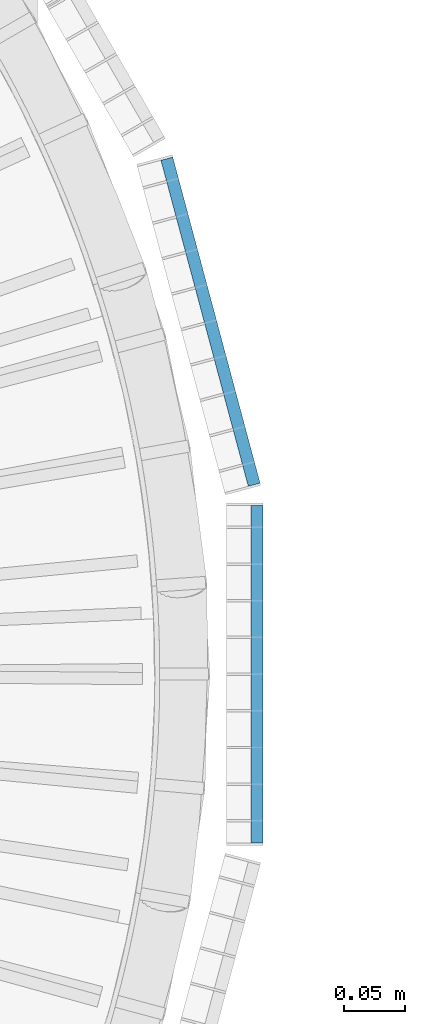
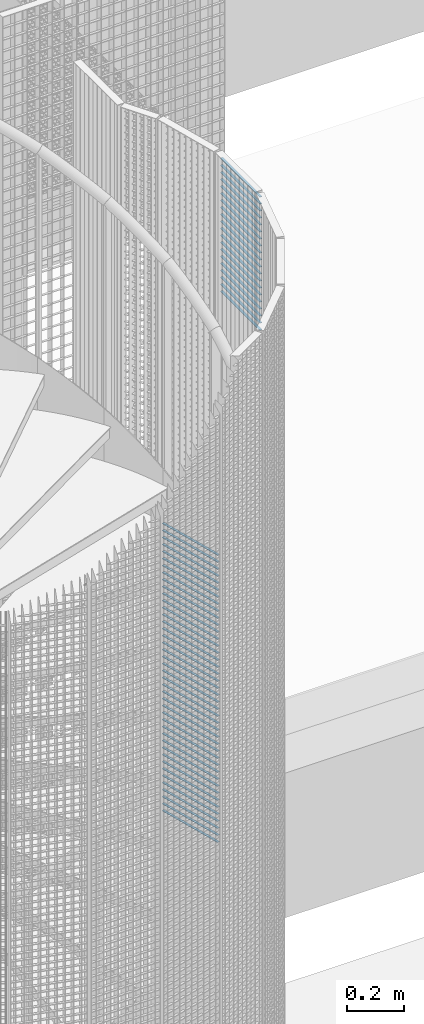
# One storey, part 265 of 1148: 62 beams, 2 elements without a shape of their own.
"""IFC2X3 building model written with IfcOpenShell, lengths in millimetres."""

import ifcopenshell
import ifcopenshell.guid

model = None  # the IFC model being written
_history = None  # IfcOwnerHistory: only IFC2X3 demands one
_inside = {}  # id of a spatial element -> (the spatial element, [elements in it])
_under = {}  # id of a project, library or spatial element -> (it, [spatial elements below it])
_declared = {}  # id of a project -> (the project, [libraries it declares])
_typed = {}  # id of a type object -> (the type object, [elements of that type])
_made_of = {}  # id of a material, layer set ... -> (it, [elements and type objects made of it])


def new_model(schema):
    """Start an empty IFC model of exactly this schema.

    Asked for "IFC4X3", IfcOpenShell would pick the latest addendum, in which some entities
    have other attributes; the version numbers below select the first issue.
    IFC2X3 requires an IfcOwnerHistory on every rooted entity: one is made here for all.
    """
    global model, _history
    if schema == "IFC4X3":
        model = ifcopenshell.file(schema_version=(4, 3, 0, 0))
    else:
        model = ifcopenshell.file(schema=schema)
    _inside.clear()
    _under.clear()
    _declared.clear()
    _typed.clear()
    _made_of.clear()
    _history = None
    if model.schema == "IFC2X3":
        org = make("IfcOrganization", Name="unknown")
        user = make(
            "IfcPersonAndOrganization",
            ThePerson=make("IfcPerson", FamilyName="unknown"),
            TheOrganization=org,
        )
        app = make(
            "IfcApplication",
            ApplicationDeveloper=org,
            Version="unknown",
            ApplicationFullName="unknown",
            ApplicationIdentifier="unknown",
        )
        _history = make(
            "IfcOwnerHistory",
            OwningUser=user,
            OwningApplication=app,
            ChangeAction="ADDED",
            CreationDate=0,
        )
    return model


def make(cls, **values):
    """One entity of the class cls with the attributes given. An attribute that is None is left unset."""
    return model.create_entity(
        cls, **{name: value for name, value in values.items() if value is not None}
    )


def rooted(cls, **values):
    """An entity with a GlobalId (a new one), such as an element, a storey or a relation."""
    return make(cls, GlobalId=ifcopenshell.guid.new(), OwnerHistory=_history, **values)


def si_unit(unit_type, name, prefix=None):
    """IfcSIUnit, for example si_unit("LENGTHUNIT", "METRE", prefix="MILLI")."""
    return make("IfcSIUnit", UnitType=unit_type, Prefix=prefix, Name=name)


def assignment(units):
    """IfcUnitAssignment: the units of a project."""
    return None if units is None else make("IfcUnitAssignment", Units=units)


def point(xyz):
    """IfcCartesianPoint."""
    return None if xyz is None else make("IfcCartesianPoint", Coordinates=xyz)


def direction(xyz):
    """IfcDirection."""
    return None if xyz is None else make("IfcDirection", DirectionRatios=xyz)


def frame(location, z_axis=None, x_axis=None):
    """IfcAxis2Placement3D, a coordinate frame: its origin and axes. An axis left out is left unset."""
    return make(
        "IfcAxis2Placement3D",
        Location=point(location),
        Axis=direction(z_axis),
        RefDirection=direction(x_axis),
    )


def frame_2d(location, x_axis=None):
    """IfcAxis2Placement2D, a coordinate frame in the plane: its origin and x axis."""
    return make(
        "IfcAxis2Placement2D", Location=point(location), RefDirection=direction(x_axis)
    )


def origin_with_axes():
    """The frame at (0, 0, 0) with the z axis (0, 0, 1) and the x axis (1, 0, 0) written out."""
    return frame((0.0, 0.0, 0.0), z_axis=(0.0, 0.0, 1.0), x_axis=(1.0, 0.0, 0.0))


def origin_2d_with_axis():
    """The frame at (0, 0) in the plane with the x axis (1, 0) written out."""
    return frame_2d((0.0, 0.0), x_axis=(1.0, 0.0))


def place(relative_to, where):
    """IfcLocalPlacement: puts the frame where relative to a parent placement (None: the world)."""
    return make(
        "IfcLocalPlacement", PlacementRelTo=relative_to, RelativePlacement=where
    )


def context(
    kind, dimensions, precision=None, world=None, true_north=None, identifier=None
):
    """IfcGeometricRepresentationContext, for example the 3D "Model" context."""
    return make(
        "IfcGeometricRepresentationContext",
        ContextIdentifier=identifier,
        ContextType=kind,
        CoordinateSpaceDimension=dimensions,
        Precision=precision,
        WorldCoordinateSystem=world,
        TrueNorth=true_north,
    )


def subcontext(parent, identifier, kind, view, scale=None):
    """IfcGeometricRepresentationSubContext, for example "Body" below "Model"."""
    return make(
        "IfcGeometricRepresentationSubContext",
        ContextIdentifier=identifier,
        ContextType=kind,
        ParentContext=parent,
        TargetScale=scale,
        TargetView=view,
    )


def project(units=None, contexts=None):
    """IfcProject with its units and contexts."""
    return rooted(
        "IfcProject",
        Name="project",
        RepresentationContexts=contexts,
        UnitsInContext=assignment(units),
    )


def spatial(cls, under=None, at=None, **own):
    """A site, building, storey or space (cls), placed at a placement, below another one or the project."""
    s = rooted(cls, ObjectPlacement=at, **own)
    if under is not None:
        _under.setdefault(under.id(), (under, []))[1].append(s)
    return s


def profile(cls, at=None, kind="AREA", **sizes):
    """A parametric profile (cls). Its sizes go by their IFC names, for example OverallWidth=200.0."""
    return make(cls, ProfileType=kind, Position=at, **sizes)


def rectangle(**sizes):
    """IfcRectangleProfileDef."""
    return profile("IfcRectangleProfileDef", **sizes)


def extrude(swept, where, along, depth):
    """IfcExtrudedAreaSolid: the profile swept, set in the frame where, extruded along a direction by depth."""
    return make(
        "IfcExtrudedAreaSolid",
        SweptArea=swept,
        Position=where,
        ExtrudedDirection=direction(along),
        Depth=depth,
    )


def shape(context_of_items, identifier, shape_type, items):
    """IfcShapeRepresentation: the items that make up one representation, for example the "Body"."""
    return make(
        "IfcShapeRepresentation",
        ContextOfItems=context_of_items,
        RepresentationIdentifier=identifier,
        RepresentationType=shape_type,
        Items=items,
    )


def material(Name=None, Category=None):
    """IfcMaterial."""
    return make("IfcMaterial", Name=Name, Category=Category)


def made_of(thing, what):
    """Note that an element or type object is made of a material, layer set ...; save() writes the relation."""
    if what is not None:
        _made_of.setdefault(what.id(), (what, []))[1].append(thing)
    return thing


def type_object(cls, material=None, **own):
    """A type object (cls), such as IfcWallType, which elements share."""
    return made_of(rooted(cls, **own), material)


def element(
    cls,
    number,
    at=None,
    inside=None,
    cuts=None,
    type_object=None,
    material=None,
    context=None,
    identifier="Body",
    shape_type=None,
    held_by="IfcProductDefinitionShape",
    body=None,
    shapes=None,
    **own,
):
    """One element of the class cls, such as IfcWall. Its Tag is "e" and its number.

    at: its placement. inside: the storey or other place that contains it. cuts: it is an
    opening in that element (IfcRelVoidsElement). A single representation is given by context,
    identifier, shape_type and body (its items); several are given by shapes. held_by: the class
    of the entity that holds the representations. save() writes the other relations.
    """
    e = rooted(cls, Tag="e%d" % number, ObjectPlacement=at, **own)
    if body is not None:
        shapes = [shape(context, identifier, shape_type, body)]
    if shapes is not None:
        e.Representation = make(held_by, Representations=shapes)
    if inside is not None:
        _inside.setdefault(inside.id(), (inside, []))[1].append(e)
    if cuts is not None:
        rooted(
            "IfcRelVoidsElement", RelatingBuildingElement=cuts, RelatedOpeningElement=e
        )
    if type_object is not None:
        _typed.setdefault(type_object.id(), (type_object, []))[1].append(e)
    return made_of(e, material)


def aggregate(whole, parts):
    """IfcRelAggregates: a whole, such as a stair, and the parts it consists of."""
    return rooted("IfcRelAggregates", RelatingObject=whole, RelatedObjects=parts)


def save(model, path):
    """Write the relations noted so far, then the file.

    IfcRelAggregates (storeys below a building ...), IfcRelContainedInSpatialStructure (elements
    in a storey), IfcRelDefinesByType, IfcRelAssociatesMaterial and IfcRelDeclares: one each for
    every whole, place, type object, material and project.
    """
    for whole, parts in _under.values():
        aggregate(whole, parts)
    for where, things in _inside.values():
        rooted(
            "IfcRelContainedInSpatialStructure",
            RelatedElements=things,
            RelatingStructure=where,
        )
    for kind, things in _typed.values():
        rooted("IfcRelDefinesByType", RelatedObjects=things, RelatingType=kind)
    for what, things in _made_of.values():
        rooted("IfcRelAssociatesMaterial", RelatedObjects=things, RelatingMaterial=what)
    for by, libraries in _declared.values():
        rooted("IfcRelDeclares", RelatingContext=by, RelatedDefinitions=libraries)
    model.write(path)


model = new_model("IFC2X3")

# Units and contexts
model_context = context("Model", 3, precision=1e-05, world=origin_with_axes())
body_context = subcontext(model_context, "Body", "Model", "MODEL_VIEW")
ifc_project = project(units=[si_unit("LENGTHUNIT", "METRE", prefix="MILLI"), si_unit("AREAUNIT", "SQUARE_METRE"), si_unit("VOLUMEUNIT", "CUBIC_METRE"), si_unit("MASSUNIT", "GRAM", prefix="KILO"), si_unit("TIMEUNIT", "SECOND"), si_unit("PLANEANGLEUNIT", "RADIAN"), si_unit("SOLIDANGLEUNIT", "STERADIAN"), si_unit("THERMODYNAMICTEMPERATUREUNIT", "DEGREE_CELSIUS"), si_unit("LUMINOUSINTENSITYUNIT", "LUMEN")], contexts=[model_context])

# Site, building, storey
site_placement = place(None, origin_with_axes())
site = spatial("IfcSite", under=ifc_project, at=site_placement, Name="Undefined", CompositionType="ELEMENT")
building_placement = place(site_placement, origin_with_axes())
building = spatial("IfcBuilding", under=site, at=building_placement, Name="Undefined", CompositionType="ELEMENT")
storey_placement = place(building_placement, origin_with_axes())
storey = spatial("IfcBuildingStorey", under=building, at=storey_placement, Name="Undefined", CompositionType="ELEMENT", Elevation=0.0)

# Assembly, beams
assembly_1_placement = place(storey_placement, origin_with_axes())
assembly_1 = element("IfcElementAssembly", 1, at=assembly_1_placement, inside=storey, Name="BORDURE", AssemblyPlace="NOTDEFINED", PredefinedType="NOTDEFINED")
ifc_material = material(Name="STEEL/S235JR")
beam_type = type_object("IfcBeamType", Name="PL2*10", PredefinedType="NOTDEFINED")
beam_1_placement = place(assembly_1_placement, frame((1111.25508286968, 154.895926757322, 16260.0), z_axis=(0.965925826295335, 0.258819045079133, 0.0), x_axis=(-0.258819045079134, 0.965925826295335, 0.0)))
beam_1 = element("IfcBeam", 2, at=beam_1_placement, type_object=beam_type, material=ifc_material, Name="ENTRETOISE", context=body_context, shape_type="SweptSolid", body=[
    extrude(rectangle(XDim=2.0, YDim=10.0, at=origin_2d_with_axis()), frame((275.999999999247, 9.09494701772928e-13, 1.53210777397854e-14), z_axis=(-1.0, 0.0, 0.0), x_axis=(0.0, -1.0, 0.0)), (0.0, 0.0, 1.0), 276.0),
])
beam_2_placement = place(assembly_1_placement, frame((1111.25508286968, 154.895926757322, 16230.0), z_axis=(0.965925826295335, 0.258819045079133, 0.0), x_axis=(-0.258819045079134, 0.965925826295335, 0.0)))
beam_2 = element("IfcBeam", 3, at=beam_2_placement, type_object=beam_type, material=ifc_material, Name="ENTRETOISE", context=body_context, shape_type="SweptSolid", body=[
    extrude(rectangle(XDim=2.0, YDim=10.0, at=origin_2d_with_axis()), frame((275.999999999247, 9.09494701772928e-13, 1.53210777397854e-14), z_axis=(-1.0, 0.0, 0.0), x_axis=(0.0, -1.0, 0.0)), (0.0, 0.0, 1.0), 276.0),
])
beam_3_placement = place(assembly_1_placement, frame((1111.25508286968, 154.895926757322, 16200.0), z_axis=(0.965925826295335, 0.258819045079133, 0.0), x_axis=(-0.258819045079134, 0.965925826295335, 0.0)))
beam_3 = element("IfcBeam", 4, at=beam_3_placement, type_object=beam_type, material=ifc_material, Name="ENTRETOISE", context=body_context, shape_type="SweptSolid", body=[
    extrude(rectangle(XDim=2.0, YDim=10.0, at=origin_2d_with_axis()), frame((275.999999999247, 9.09494701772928e-13, 1.53210777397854e-14), z_axis=(-1.0, 0.0, 0.0), x_axis=(0.0, -1.0, 0.0)), (0.0, 0.0, 1.0), 276.0),
])
beam_4_placement = place(assembly_1_placement, frame((1111.25508286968, 154.895926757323, 16170.0), z_axis=(0.965925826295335, 0.258819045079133, 0.0), x_axis=(-0.258819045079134, 0.965925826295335, 0.0)))
beam_4 = element("IfcBeam", 5, at=beam_4_placement, type_object=beam_type, material=ifc_material, Name="ENTRETOISE", context=body_context, shape_type="SweptSolid", body=[
    extrude(rectangle(XDim=2.0, YDim=10.0, at=origin_2d_with_axis()), frame((275.999999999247, 9.09494701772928e-13, 1.53210777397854e-14), z_axis=(-1.0, 0.0, 0.0), x_axis=(0.0, -1.0, 0.0)), (0.0, 0.0, 1.0), 276.0),
])
beam_5_placement = place(assembly_1_placement, frame((1111.25508286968, 154.895926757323, 16140.0), z_axis=(0.965925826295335, 0.258819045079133, 0.0), x_axis=(-0.258819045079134, 0.965925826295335, 0.0)))
beam_5 = element("IfcBeam", 6, at=beam_5_placement, type_object=beam_type, material=ifc_material, Name="ENTRETOISE", context=body_context, shape_type="SweptSolid", body=[
    extrude(rectangle(XDim=2.0, YDim=10.0, at=origin_2d_with_axis()), frame((275.999999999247, 9.09494701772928e-13, 1.53210777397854e-14), z_axis=(-1.0, 0.0, 0.0), x_axis=(0.0, -1.0, 0.0)), (0.0, 0.0, 1.0), 276.0),
])
beam_6_placement = place(assembly_1_placement, frame((1111.25508286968, 154.895926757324, 15720.0), z_axis=(0.965925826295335, 0.258819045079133, 0.0), x_axis=(-0.258819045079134, 0.965925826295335, 0.0)))
beam_6 = element("IfcBeam", 7, at=beam_6_placement, type_object=beam_type, material=ifc_material, Name="ENTRETOISE", context=body_context, shape_type="SweptSolid", body=[
    extrude(rectangle(XDim=2.0, YDim=10.0, at=origin_2d_with_axis()), frame((275.999999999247, 9.09494701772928e-13, 1.53210777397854e-14), z_axis=(-1.0, 0.0, 0.0), x_axis=(0.0, -1.0, 0.0)), (0.0, 0.0, 1.0), 276.0),
])
beam_7_placement = place(assembly_1_placement, frame((1111.25508286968, 154.895926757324, 15690.0), z_axis=(0.965925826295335, 0.258819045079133, 0.0), x_axis=(-0.258819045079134, 0.965925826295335, 0.0)))
beam_7 = element("IfcBeam", 8, at=beam_7_placement, type_object=beam_type, material=ifc_material, Name="ENTRETOISE", context=body_context, shape_type="SweptSolid", body=[
    extrude(rectangle(XDim=2.0, YDim=10.0, at=origin_2d_with_axis()), frame((275.999999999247, 9.09494701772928e-13, 1.53210777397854e-14), z_axis=(-1.0, 0.0, 0.0), x_axis=(0.0, -1.0, 0.0)), (0.0, 0.0, 1.0), 276.0),
])
beam_8_placement = place(assembly_1_placement, frame((1111.25508286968, 154.895926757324, 15750.0), z_axis=(0.965925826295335, 0.258819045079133, 0.0), x_axis=(-0.258819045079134, 0.965925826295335, 0.0)))
beam_8 = element("IfcBeam", 9, at=beam_8_placement, type_object=beam_type, material=ifc_material, Name="ENTRETOISE", context=body_context, shape_type="SweptSolid", body=[
    extrude(rectangle(XDim=2.0, YDim=10.0, at=origin_2d_with_axis()), frame((275.999999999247, 9.09494701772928e-13, 1.53210777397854e-14), z_axis=(-1.0, 0.0, 0.0), x_axis=(0.0, -1.0, 0.0)), (0.0, 0.0, 1.0), 276.0),
])
beam_9_placement = place(assembly_1_placement, frame((1111.25508286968, 154.895926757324, 15660.0), z_axis=(0.965925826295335, 0.258819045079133, 0.0), x_axis=(-0.258819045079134, 0.965925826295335, 0.0)))
beam_9 = element("IfcBeam", 10, at=beam_9_placement, type_object=beam_type, material=ifc_material, Name="ENTRETOISE", context=body_context, shape_type="SweptSolid", body=[
    extrude(rectangle(XDim=2.0, YDim=10.0, at=origin_2d_with_axis()), frame((275.999999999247, 9.09494701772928e-13, 1.53210777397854e-14), z_axis=(-1.0, 0.0, 0.0), x_axis=(0.0, -1.0, 0.0)), (0.0, 0.0, 1.0), 276.0),
])
beam_10_placement = place(assembly_1_placement, frame((1111.25508286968, 154.895926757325, 15630.0), z_axis=(0.965925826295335, 0.258819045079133, 0.0), x_axis=(-0.258819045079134, 0.965925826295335, 0.0)))
beam_10 = element("IfcBeam", 11, at=beam_10_placement, type_object=beam_type, material=ifc_material, Name="ENTRETOISE", context=body_context, shape_type="SweptSolid", body=[
    extrude(rectangle(XDim=2.0, YDim=10.0, at=origin_2d_with_axis()), frame((275.999999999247, 9.09494701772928e-13, 1.53210777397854e-14), z_axis=(-1.0, 0.0, 0.0), x_axis=(0.0, -1.0, 0.0)), (0.0, 0.0, 1.0), 276.0),
])
beam_11_placement = place(assembly_1_placement, frame((1111.25508286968, 154.895926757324, 15780.0), z_axis=(0.965925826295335, 0.258819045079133, 0.0), x_axis=(-0.258819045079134, 0.965925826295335, 0.0)))
beam_11 = element("IfcBeam", 12, at=beam_11_placement, type_object=beam_type, material=ifc_material, Name="ENTRETOISE", context=body_context, shape_type="SweptSolid", body=[
    extrude(rectangle(XDim=2.0, YDim=10.0, at=origin_2d_with_axis()), frame((275.999999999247, 9.09494701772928e-13, 1.53210777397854e-14), z_axis=(-1.0, 0.0, 0.0), x_axis=(0.0, -1.0, 0.0)), (0.0, 0.0, 1.0), 276.0),
])
beam_12_placement = place(assembly_1_placement, frame((1111.25508286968, 154.895926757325, 15600.0), z_axis=(0.965925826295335, 0.258819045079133, 0.0), x_axis=(-0.258819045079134, 0.965925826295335, 0.0)))
beam_12 = element("IfcBeam", 13, at=beam_12_placement, type_object=beam_type, material=ifc_material, Name="ENTRETOISE", context=body_context, shape_type="SweptSolid", body=[
    extrude(rectangle(XDim=2.0, YDim=10.0, at=origin_2d_with_axis()), frame((275.999999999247, 9.09494701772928e-13, 1.53210777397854e-14), z_axis=(-1.0, 0.0, 0.0), x_axis=(0.0, -1.0, 0.0)), (0.0, 0.0, 1.0), 276.0),
])
beam_13_placement = place(assembly_1_placement, frame((1111.25508286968, 154.895926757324, 15810.0), z_axis=(0.965925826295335, 0.258819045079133, 0.0), x_axis=(-0.258819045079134, 0.965925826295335, 0.0)))
beam_13 = element("IfcBeam", 14, at=beam_13_placement, type_object=beam_type, material=ifc_material, Name="ENTRETOISE", context=body_context, shape_type="SweptSolid", body=[
    extrude(rectangle(XDim=2.0, YDim=10.0, at=origin_2d_with_axis()), frame((275.999999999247, 9.09494701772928e-13, 1.53210777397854e-14), z_axis=(-1.0, 0.0, 0.0), x_axis=(0.0, -1.0, 0.0)), (0.0, 0.0, 1.0), 276.0),
])
beam_14_placement = place(assembly_1_placement, frame((1111.25508286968, 154.895926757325, 15570.0), z_axis=(0.965925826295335, 0.258819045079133, 0.0), x_axis=(-0.258819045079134, 0.965925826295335, 0.0)))
beam_14 = element("IfcBeam", 15, at=beam_14_placement, type_object=beam_type, material=ifc_material, Name="ENTRETOISE", context=body_context, shape_type="SweptSolid", body=[
    extrude(rectangle(XDim=2.0, YDim=10.0, at=origin_2d_with_axis()), frame((275.999999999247, 9.09494701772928e-13, 1.53210777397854e-14), z_axis=(-1.0, 0.0, 0.0), x_axis=(0.0, -1.0, 0.0)), (0.0, 0.0, 1.0), 276.0),
])
beam_15_placement = place(assembly_1_placement, frame((1111.25508286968, 154.895926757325, 15540.0), z_axis=(0.965925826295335, 0.258819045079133, 0.0), x_axis=(-0.258819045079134, 0.965925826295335, 0.0)))
beam_15 = element("IfcBeam", 16, at=beam_15_placement, type_object=beam_type, material=ifc_material, Name="ENTRETOISE", context=body_context, shape_type="SweptSolid", body=[
    extrude(rectangle(XDim=2.0, YDim=10.0, at=origin_2d_with_axis()), frame((275.999999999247, 9.09494701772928e-13, 1.53210777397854e-14), z_axis=(-1.0, 0.0, 0.0), x_axis=(0.0, -1.0, 0.0)), (0.0, 0.0, 1.0), 276.0),
])
beam_16_placement = place(assembly_1_placement, frame((1111.25508286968, 154.895926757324, 15840.0), z_axis=(0.965925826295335, 0.258819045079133, 0.0), x_axis=(-0.258819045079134, 0.965925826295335, 0.0)))
beam_16 = element("IfcBeam", 17, at=beam_16_placement, type_object=beam_type, material=ifc_material, Name="ENTRETOISE", context=body_context, shape_type="SweptSolid", body=[
    extrude(rectangle(XDim=2.0, YDim=10.0, at=origin_2d_with_axis()), frame((275.999999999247, 9.09494701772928e-13, 1.53210777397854e-14), z_axis=(-1.0, 0.0, 0.0), x_axis=(0.0, -1.0, 0.0)), (0.0, 0.0, 1.0), 276.0),
])
beam_17_placement = place(assembly_1_placement, frame((1111.25508286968, 154.895926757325, 15510.0), z_axis=(0.965925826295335, 0.258819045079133, 0.0), x_axis=(-0.258819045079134, 0.965925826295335, 0.0)))
beam_17 = element("IfcBeam", 18, at=beam_17_placement, type_object=beam_type, material=ifc_material, Name="ENTRETOISE", context=body_context, shape_type="SweptSolid", body=[
    extrude(rectangle(XDim=2.0, YDim=10.0, at=origin_2d_with_axis()), frame((275.999999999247, 9.09494701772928e-13, 1.53210777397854e-14), z_axis=(-1.0, 0.0, 0.0), x_axis=(0.0, -1.0, 0.0)), (0.0, 0.0, 1.0), 276.0),
])
beam_18_placement = place(assembly_1_placement, frame((1111.25508286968, 154.895926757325, 15480.0), z_axis=(0.965925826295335, 0.258819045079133, 0.0), x_axis=(-0.258819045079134, 0.965925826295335, 0.0)))
beam_18 = element("IfcBeam", 19, at=beam_18_placement, type_object=beam_type, material=ifc_material, Name="ENTRETOISE", context=body_context, shape_type="SweptSolid", body=[
    extrude(rectangle(XDim=2.0, YDim=10.0, at=origin_2d_with_axis()), frame((275.999999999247, 9.09494701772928e-13, 1.53210777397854e-14), z_axis=(-1.0, 0.0, 0.0), x_axis=(0.0, -1.0, 0.0)), (0.0, 0.0, 1.0), 276.0),
])
beam_19_placement = place(assembly_1_placement, frame((1111.25508286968, 154.895926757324, 15870.0), z_axis=(0.965925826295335, 0.258819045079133, 0.0), x_axis=(-0.258819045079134, 0.965925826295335, 0.0)))
beam_19 = element("IfcBeam", 20, at=beam_19_placement, type_object=beam_type, material=ifc_material, Name="ENTRETOISE", context=body_context, shape_type="SweptSolid", body=[
    extrude(rectangle(XDim=2.0, YDim=10.0, at=origin_2d_with_axis()), frame((275.999999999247, 9.09494701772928e-13, 1.53210777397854e-14), z_axis=(-1.0, 0.0, 0.0), x_axis=(0.0, -1.0, 0.0)), (0.0, 0.0, 1.0), 276.0),
])
beam_20_placement = place(assembly_1_placement, frame((1111.25508286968, 154.895926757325, 15450.0), z_axis=(0.965925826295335, 0.258819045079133, 0.0), x_axis=(-0.258819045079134, 0.965925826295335, 0.0)))
beam_20 = element("IfcBeam", 21, at=beam_20_placement, type_object=beam_type, material=ifc_material, Name="ENTRETOISE", context=body_context, shape_type="SweptSolid", body=[
    extrude(rectangle(XDim=2.0, YDim=10.0, at=origin_2d_with_axis()), frame((275.999999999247, 9.09494701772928e-13, 1.53210777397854e-14), z_axis=(-1.0, 0.0, 0.0), x_axis=(0.0, -1.0, 0.0)), (0.0, 0.0, 1.0), 276.0),
])
beam_21_placement = place(assembly_1_placement, frame((1111.25508286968, 154.895926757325, 15420.0), z_axis=(0.965925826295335, 0.258819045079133, 0.0), x_axis=(-0.258819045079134, 0.965925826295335, 0.0)))
beam_21 = element("IfcBeam", 22, at=beam_21_placement, type_object=beam_type, material=ifc_material, Name="ENTRETOISE", context=body_context, shape_type="SweptSolid", body=[
    extrude(rectangle(XDim=2.0, YDim=10.0, at=origin_2d_with_axis()), frame((275.999999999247, 9.09494701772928e-13, 1.53210777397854e-14), z_axis=(-1.0, 0.0, 0.0), x_axis=(0.0, -1.0, 0.0)), (0.0, 0.0, 1.0), 276.0),
])
beam_22_placement = place(assembly_1_placement, frame((1111.25508286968, 154.895926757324, 15900.0), z_axis=(0.965925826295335, 0.258819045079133, 0.0), x_axis=(-0.258819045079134, 0.965925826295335, 0.0)))
beam_22 = element("IfcBeam", 23, at=beam_22_placement, type_object=beam_type, material=ifc_material, Name="ENTRETOISE", context=body_context, shape_type="SweptSolid", body=[
    extrude(rectangle(XDim=2.0, YDim=10.0, at=origin_2d_with_axis()), frame((275.999999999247, 9.09494701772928e-13, 1.53210777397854e-14), z_axis=(-1.0, 0.0, 0.0), x_axis=(0.0, -1.0, 0.0)), (0.0, 0.0, 1.0), 276.0),
])
beam_23_placement = place(assembly_1_placement, frame((1111.25508286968, 154.895926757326, 15390.0), z_axis=(0.965925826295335, 0.258819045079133, 0.0), x_axis=(-0.258819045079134, 0.965925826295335, 0.0)))
beam_23 = element("IfcBeam", 24, at=beam_23_placement, type_object=beam_type, material=ifc_material, Name="ENTRETOISE", context=body_context, shape_type="SweptSolid", body=[
    extrude(rectangle(XDim=2.0, YDim=10.0, at=origin_2d_with_axis()), frame((275.999999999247, 9.09494701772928e-13, 1.53210777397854e-14), z_axis=(-1.0, 0.0, 0.0), x_axis=(0.0, -1.0, 0.0)), (0.0, 0.0, 1.0), 276.0),
])
beam_24_placement = place(assembly_1_placement, frame((1111.25508286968, 154.895926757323, 15930.0), z_axis=(0.965925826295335, 0.258819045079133, 0.0), x_axis=(-0.258819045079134, 0.965925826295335, 0.0)))
beam_24 = element("IfcBeam", 25, at=beam_24_placement, type_object=beam_type, material=ifc_material, Name="ENTRETOISE", context=body_context, shape_type="SweptSolid", body=[
    extrude(rectangle(XDim=2.0, YDim=10.0, at=origin_2d_with_axis()), frame((275.999999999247, 9.09494701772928e-13, 1.53210777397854e-14), z_axis=(-1.0, 0.0, 0.0), x_axis=(0.0, -1.0, 0.0)), (0.0, 0.0, 1.0), 276.0),
])
beam_25_placement = place(assembly_1_placement, frame((1111.25508286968, 154.895926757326, 15360.0), z_axis=(0.965925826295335, 0.258819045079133, 0.0), x_axis=(-0.258819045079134, 0.965925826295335, 0.0)))
beam_25 = element("IfcBeam", 26, at=beam_25_placement, type_object=beam_type, material=ifc_material, Name="ENTRETOISE", context=body_context, shape_type="SweptSolid", body=[
    extrude(rectangle(XDim=2.0, YDim=10.0, at=origin_2d_with_axis()), frame((275.999999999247, 9.09494701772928e-13, 1.53210777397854e-14), z_axis=(-1.0, 0.0, 0.0), x_axis=(0.0, -1.0, 0.0)), (0.0, 0.0, 1.0), 276.0),
])
beam_26_placement = place(assembly_1_placement, frame((1111.25508286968, 154.895926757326, 15330.0), z_axis=(0.965925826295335, 0.258819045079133, 0.0), x_axis=(-0.258819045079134, 0.965925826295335, 0.0)))
beam_26 = element("IfcBeam", 27, at=beam_26_placement, type_object=beam_type, material=ifc_material, Name="ENTRETOISE", context=body_context, shape_type="SweptSolid", body=[
    extrude(rectangle(XDim=2.0, YDim=10.0, at=origin_2d_with_axis()), frame((275.999999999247, 9.09494701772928e-13, 1.53210777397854e-14), z_axis=(-1.0, 0.0, 0.0), x_axis=(0.0, -1.0, 0.0)), (0.0, 0.0, 1.0), 276.0),
])
beam_27_placement = place(assembly_1_placement, frame((1111.25508286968, 154.895926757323, 15960.0), z_axis=(0.965925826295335, 0.258819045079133, 0.0), x_axis=(-0.258819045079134, 0.965925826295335, 0.0)))
beam_27 = element("IfcBeam", 28, at=beam_27_placement, type_object=beam_type, material=ifc_material, Name="ENTRETOISE", context=body_context, shape_type="SweptSolid", body=[
    extrude(rectangle(XDim=2.0, YDim=10.0, at=origin_2d_with_axis()), frame((275.999999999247, 9.09494701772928e-13, 1.53210777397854e-14), z_axis=(-1.0, 0.0, 0.0), x_axis=(0.0, -1.0, 0.0)), (0.0, 0.0, 1.0), 276.0),
])
beam_28_placement = place(assembly_1_placement, frame((1111.25508286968, 154.895926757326, 15300.0), z_axis=(0.965925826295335, 0.258819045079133, 0.0), x_axis=(-0.258819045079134, 0.965925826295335, 0.0)))
beam_28 = element("IfcBeam", 29, at=beam_28_placement, type_object=beam_type, material=ifc_material, Name="ENTRETOISE", context=body_context, shape_type="SweptSolid", body=[
    extrude(rectangle(XDim=2.0, YDim=10.0, at=origin_2d_with_axis()), frame((275.999999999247, 9.09494701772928e-13, 1.53210777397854e-14), z_axis=(-1.0, 0.0, 0.0), x_axis=(0.0, -1.0, 0.0)), (0.0, 0.0, 1.0), 276.0),
])
beam_29_placement = place(assembly_1_placement, frame((1111.25508286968, 154.895926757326, 15270.0), z_axis=(0.965925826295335, 0.258819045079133, 0.0), x_axis=(-0.258819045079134, 0.965925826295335, 0.0)))
beam_29 = element("IfcBeam", 30, at=beam_29_placement, type_object=beam_type, material=ifc_material, Name="ENTRETOISE", context=body_context, shape_type="SweptSolid", body=[
    extrude(rectangle(XDim=2.0, YDim=10.0, at=origin_2d_with_axis()), frame((275.999999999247, 9.09494701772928e-13, 1.53210777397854e-14), z_axis=(-1.0, 0.0, 0.0), x_axis=(0.0, -1.0, 0.0)), (0.0, 0.0, 1.0), 276.0),
])
beam_30_placement = place(assembly_1_placement, frame((1111.25508286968, 154.895926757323, 15990.0), z_axis=(0.965925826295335, 0.258819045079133, 0.0), x_axis=(-0.258819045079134, 0.965925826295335, 0.0)))
beam_30 = element("IfcBeam", 31, at=beam_30_placement, type_object=beam_type, material=ifc_material, Name="ENTRETOISE", context=body_context, shape_type="SweptSolid", body=[
    extrude(rectangle(XDim=2.0, YDim=10.0, at=origin_2d_with_axis()), frame((275.999999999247, 9.09494701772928e-13, 1.53210777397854e-14), z_axis=(-1.0, 0.0, 0.0), x_axis=(0.0, -1.0, 0.0)), (0.0, 0.0, 1.0), 276.0),
])
beam_31_placement = place(assembly_1_placement, frame((1111.25508286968, 154.895926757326, 15240.0), z_axis=(0.965925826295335, 0.258819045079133, 0.0), x_axis=(-0.258819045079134, 0.965925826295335, 0.0)))
beam_31 = element("IfcBeam", 32, at=beam_31_placement, type_object=beam_type, material=ifc_material, Name="ENTRETOISE", context=body_context, shape_type="SweptSolid", body=[
    extrude(rectangle(XDim=2.0, YDim=10.0, at=origin_2d_with_axis()), frame((275.999999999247, 9.09494701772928e-13, 1.53210777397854e-14), z_axis=(-1.0, 0.0, 0.0), x_axis=(0.0, -1.0, 0.0)), (0.0, 0.0, 1.0), 276.0),
])
beam_32_placement = place(assembly_1_placement, frame((1111.25508286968, 154.895926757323, 16020.0), z_axis=(0.965925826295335, 0.258819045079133, 0.0), x_axis=(-0.258819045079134, 0.965925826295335, 0.0)))
beam_32 = element("IfcBeam", 33, at=beam_32_placement, type_object=beam_type, material=ifc_material, Name="ENTRETOISE", context=body_context, shape_type="SweptSolid", body=[
    extrude(rectangle(XDim=2.0, YDim=10.0, at=origin_2d_with_axis()), frame((275.999999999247, 9.09494701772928e-13, 1.53210777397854e-14), z_axis=(-1.0, 0.0, 0.0), x_axis=(0.0, -1.0, 0.0)), (0.0, 0.0, 1.0), 276.0),
])
beam_33_placement = place(assembly_1_placement, frame((1111.25508286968, 154.895926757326, 15210.0), z_axis=(0.965925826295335, 0.258819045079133, 0.0), x_axis=(-0.258819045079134, 0.965925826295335, 0.0)))
beam_33 = element("IfcBeam", 34, at=beam_33_placement, type_object=beam_type, material=ifc_material, Name="ENTRETOISE", context=body_context, shape_type="SweptSolid", body=[
    extrude(rectangle(XDim=2.0, YDim=10.0, at=origin_2d_with_axis()), frame((275.999999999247, 9.09494701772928e-13, 1.53210777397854e-14), z_axis=(-1.0, 0.0, 0.0), x_axis=(0.0, -1.0, 0.0)), (0.0, 0.0, 1.0), 276.0),
])
beam_34_placement = place(assembly_1_placement, frame((1111.25508286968, 154.895926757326, 15180.0), z_axis=(0.965925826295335, 0.258819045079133, 0.0), x_axis=(-0.258819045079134, 0.965925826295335, 0.0)))
beam_34 = element("IfcBeam", 35, at=beam_34_placement, type_object=beam_type, material=ifc_material, Name="ENTRETOISE", context=body_context, shape_type="SweptSolid", body=[
    extrude(rectangle(XDim=2.0, YDim=10.0, at=origin_2d_with_axis()), frame((275.999999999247, 9.09494701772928e-13, 1.53210777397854e-14), z_axis=(-1.0, 0.0, 0.0), x_axis=(0.0, -1.0, 0.0)), (0.0, 0.0, 1.0), 276.0),
])
beam_35_placement = place(assembly_1_placement, frame((1111.25508286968, 154.895926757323, 16050.0), z_axis=(0.965925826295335, 0.258819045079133, 0.0), x_axis=(-0.258819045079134, 0.965925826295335, 0.0)))
beam_35 = element("IfcBeam", 36, at=beam_35_placement, type_object=beam_type, material=ifc_material, Name="ENTRETOISE", context=body_context, shape_type="SweptSolid", body=[
    extrude(rectangle(XDim=2.0, YDim=10.0, at=origin_2d_with_axis()), frame((275.999999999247, 9.09494701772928e-13, 1.53210777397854e-14), z_axis=(-1.0, 0.0, 0.0), x_axis=(0.0, -1.0, 0.0)), (0.0, 0.0, 1.0), 276.0),
])
beam_36_placement = place(assembly_1_placement, frame((1111.25508286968, 154.895926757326, 15150.0), z_axis=(0.965925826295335, 0.258819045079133, 0.0), x_axis=(-0.258819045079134, 0.965925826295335, 0.0)))
beam_36 = element("IfcBeam", 37, at=beam_36_placement, type_object=beam_type, material=ifc_material, Name="ENTRETOISE", context=body_context, shape_type="SweptSolid", body=[
    extrude(rectangle(XDim=2.0, YDim=10.0, at=origin_2d_with_axis()), frame((275.999999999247, 9.09494701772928e-13, 1.53210777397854e-14), z_axis=(-1.0, 0.0, 0.0), x_axis=(0.0, -1.0, 0.0)), (0.0, 0.0, 1.0), 276.0),
])
beam_37_placement = place(assembly_1_placement, frame((1111.25508286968, 154.895926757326, 15120.0), z_axis=(0.965925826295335, 0.258819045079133, 0.0), x_axis=(-0.258819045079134, 0.965925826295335, 0.0)))
beam_37 = element("IfcBeam", 38, at=beam_37_placement, type_object=beam_type, material=ifc_material, Name="ENTRETOISE", context=body_context, shape_type="SweptSolid", body=[
    extrude(rectangle(XDim=2.0, YDim=10.0, at=origin_2d_with_axis()), frame((275.999999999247, 9.09494701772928e-13, 1.53210777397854e-14), z_axis=(-1.0, 0.0, 0.0), x_axis=(0.0, -1.0, 0.0)), (0.0, 0.0, 1.0), 276.0),
])
beam_38_placement = place(assembly_1_placement, frame((1111.25508286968, 154.895926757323, 16080.0), z_axis=(0.965925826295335, 0.258819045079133, 0.0), x_axis=(-0.258819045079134, 0.965925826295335, 0.0)))
beam_38 = element("IfcBeam", 39, at=beam_38_placement, type_object=beam_type, material=ifc_material, Name="ENTRETOISE", context=body_context, shape_type="SweptSolid", body=[
    extrude(rectangle(XDim=2.0, YDim=10.0, at=origin_2d_with_axis()), frame((275.999999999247, 9.09494701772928e-13, 1.53210777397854e-14), z_axis=(-1.0, 0.0, 0.0), x_axis=(0.0, -1.0, 0.0)), (0.0, 0.0, 1.0), 276.0),
])
beam_39_placement = place(assembly_1_placement, frame((1111.25508286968, 154.895926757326, 15090.0), z_axis=(0.965925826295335, 0.258819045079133, 0.0), x_axis=(-0.258819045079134, 0.965925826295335, 0.0)))
beam_39 = element("IfcBeam", 40, at=beam_39_placement, type_object=beam_type, material=ifc_material, Name="ENTRETOISE", context=body_context, shape_type="SweptSolid", body=[
    extrude(rectangle(XDim=2.0, YDim=10.0, at=origin_2d_with_axis()), frame((275.999999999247, 9.09494701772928e-13, 1.53210777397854e-14), z_axis=(-1.0, 0.0, 0.0), x_axis=(0.0, -1.0, 0.0)), (0.0, 0.0, 1.0), 276.0),
])
beam_40_placement = place(assembly_1_placement, frame((1111.25508286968, 154.895926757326, 15060.0), z_axis=(0.965925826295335, 0.258819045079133, 0.0), x_axis=(-0.258819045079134, 0.965925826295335, 0.0)))
beam_40 = element("IfcBeam", 41, at=beam_40_placement, type_object=beam_type, material=ifc_material, Name="ENTRETOISE", context=body_context, shape_type="SweptSolid", body=[
    extrude(rectangle(XDim=2.0, YDim=10.0, at=origin_2d_with_axis()), frame((275.999999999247, 9.09494701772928e-13, 1.53210777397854e-14), z_axis=(-1.0, 0.0, 0.0), x_axis=(0.0, -1.0, 0.0)), (0.0, 0.0, 1.0), 276.0),
])
beam_41_placement = place(assembly_1_placement, frame((1111.25508286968, 154.895926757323, 16110.0), z_axis=(0.965925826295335, 0.258819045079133, 0.0), x_axis=(-0.258819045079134, 0.965925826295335, 0.0)))
beam_41 = element("IfcBeam", 42, at=beam_41_placement, type_object=beam_type, material=ifc_material, Name="ENTRETOISE", context=body_context, shape_type="SweptSolid", body=[
    extrude(rectangle(XDim=2.0, YDim=10.0, at=origin_2d_with_axis()), frame((275.999999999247, 9.09494701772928e-13, 1.53210777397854e-14), z_axis=(-1.0, 0.0, 0.0), x_axis=(0.0, -1.0, 0.0)), (0.0, 0.0, 1.0), 276.0),
])
beam_42_placement = place(assembly_1_placement, frame((1111.25508286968, 154.895926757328, 15030.0), z_axis=(0.965925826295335, 0.258819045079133, 0.0), x_axis=(-0.258819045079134, 0.965925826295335, 0.0)))
beam_42 = element("IfcBeam", 43, at=beam_42_placement, type_object=beam_type, material=ifc_material, Name="ENTRETOISE", context=body_context, shape_type="SweptSolid", body=[
    extrude(rectangle(XDim=2.0, YDim=10.0, at=origin_2d_with_axis()), frame((275.999999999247, 9.09494701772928e-13, 1.53210777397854e-14), z_axis=(-1.0, 0.0, 0.0), x_axis=(0.0, -1.0, 0.0)), (0.0, 0.0, 1.0), 276.0),
])
aggregate(assembly_1, [beam_1, beam_2, beam_3, beam_4, beam_5, beam_6, beam_7, beam_8, beam_9, beam_10, beam_11, beam_12, beam_13, beam_14, beam_15, beam_16, beam_17, beam_18, beam_19, beam_20, beam_21, beam_22, beam_23, beam_24, beam_25, beam_26, beam_27, beam_28, beam_29, beam_30, beam_31, beam_32, beam_33, beam_34, beam_35, beam_36, beam_37, beam_38, beam_39, beam_40, beam_41, beam_42])

assembly_2_placement = place(storey_placement, origin_with_axes())
assembly_2 = element("IfcElementAssembly", 44, at=assembly_2_placement, inside=storey, Name="BORDURE", AssemblyPlace="NOTDEFINED", PredefinedType="NOTDEFINED")
beam_43_placement = place(assembly_2_placement, frame((1113.47999999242, -137.996003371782, 17970.0), z_axis=(1.0, 0.0, 0.0), x_axis=(0.0, 1.0, 0.0)))
beam_43 = element("IfcBeam", 45, at=beam_43_placement, type_object=beam_type, material=ifc_material, Name="ENTRETOISE", context=body_context, shape_type="SweptSolid", body=[
    extrude(rectangle(XDim=2.0, YDim=10.0, at=origin_2d_with_axis()), frame((275.999999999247, 9.09494701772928e-13, 1.53210777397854e-14), z_axis=(-1.0, 0.0, 0.0), x_axis=(0.0, -1.0, 0.0)), (0.0, 0.0, 1.0), 276.0),
])
beam_44_placement = place(assembly_2_placement, frame((1113.47999999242, -137.996003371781, 17940.0), z_axis=(1.0, 0.0, 0.0), x_axis=(0.0, 1.0, 0.0)))
beam_44 = element("IfcBeam", 46, at=beam_44_placement, type_object=beam_type, material=ifc_material, Name="ENTRETOISE", context=body_context, shape_type="SweptSolid", body=[
    extrude(rectangle(XDim=2.0, YDim=10.0, at=origin_2d_with_axis()), frame((275.999999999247, 9.09494701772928e-13, 1.53210777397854e-14), z_axis=(-1.0, 0.0, 0.0), x_axis=(0.0, -1.0, 0.0)), (0.0, 0.0, 1.0), 276.0),
])
beam_45_placement = place(assembly_2_placement, frame((1113.47999999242, -137.996003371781, 17910.0), z_axis=(1.0, 0.0, 0.0), x_axis=(0.0, 1.0, 0.0)))
beam_45 = element("IfcBeam", 47, at=beam_45_placement, type_object=beam_type, material=ifc_material, Name="ENTRETOISE", context=body_context, shape_type="SweptSolid", body=[
    extrude(rectangle(XDim=2.0, YDim=10.0, at=origin_2d_with_axis()), frame((275.999999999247, 9.09494701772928e-13, 1.53210777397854e-14), z_axis=(-1.0, 0.0, 0.0), x_axis=(0.0, -1.0, 0.0)), (0.0, 0.0, 1.0), 276.0),
])
beam_46_placement = place(assembly_2_placement, frame((1113.47999999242, -137.996003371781, 17880.0), z_axis=(1.0, 0.0, 0.0), x_axis=(0.0, 1.0, 0.0)))
beam_46 = element("IfcBeam", 48, at=beam_46_placement, type_object=beam_type, material=ifc_material, Name="ENTRETOISE", context=body_context, shape_type="SweptSolid", body=[
    extrude(rectangle(XDim=2.0, YDim=10.0, at=origin_2d_with_axis()), frame((275.999999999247, 9.09494701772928e-13, 1.53210777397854e-14), z_axis=(-1.0, 0.0, 0.0), x_axis=(0.0, -1.0, 0.0)), (0.0, 0.0, 1.0), 276.0),
])
beam_47_placement = place(assembly_2_placement, frame((1113.47999999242, -137.996003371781, 17850.0), z_axis=(1.0, 0.0, 0.0), x_axis=(0.0, 1.0, 0.0)))
beam_47 = element("IfcBeam", 49, at=beam_47_placement, type_object=beam_type, material=ifc_material, Name="ENTRETOISE", context=body_context, shape_type="SweptSolid", body=[
    extrude(rectangle(XDim=2.0, YDim=10.0, at=origin_2d_with_axis()), frame((275.999999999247, 9.09494701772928e-13, 1.53210777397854e-14), z_axis=(-1.0, 0.0, 0.0), x_axis=(0.0, -1.0, 0.0)), (0.0, 0.0, 1.0), 276.0),
])
beam_48_placement = place(assembly_2_placement, frame((1113.47999999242, -137.996003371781, 17820.0), z_axis=(1.0, 0.0, 0.0), x_axis=(0.0, 1.0, 0.0)))
beam_48 = element("IfcBeam", 50, at=beam_48_placement, type_object=beam_type, material=ifc_material, Name="ENTRETOISE", context=body_context, shape_type="SweptSolid", body=[
    extrude(rectangle(XDim=2.0, YDim=10.0, at=origin_2d_with_axis()), frame((275.999999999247, 9.09494701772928e-13, 1.53210777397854e-14), z_axis=(-1.0, 0.0, 0.0), x_axis=(0.0, -1.0, 0.0)), (0.0, 0.0, 1.0), 276.0),
])
beam_49_placement = place(assembly_2_placement, frame((1113.47999999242, -137.996003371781, 17790.0), z_axis=(1.0, 0.0, 0.0), x_axis=(0.0, 1.0, 0.0)))
beam_49 = element("IfcBeam", 51, at=beam_49_placement, type_object=beam_type, material=ifc_material, Name="ENTRETOISE", context=body_context, shape_type="SweptSolid", body=[
    extrude(rectangle(XDim=2.0, YDim=10.0, at=origin_2d_with_axis()), frame((275.999999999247, 9.09494701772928e-13, 1.53210777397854e-14), z_axis=(-1.0, 0.0, 0.0), x_axis=(0.0, -1.0, 0.0)), (0.0, 0.0, 1.0), 276.0),
])
beam_50_placement = place(assembly_2_placement, frame((1113.47999999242, -137.996003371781, 17760.0), z_axis=(1.0, 0.0, 0.0), x_axis=(0.0, 1.0, 0.0)))
beam_50 = element("IfcBeam", 52, at=beam_50_placement, type_object=beam_type, material=ifc_material, Name="ENTRETOISE", context=body_context, shape_type="SweptSolid", body=[
    extrude(rectangle(XDim=2.0, YDim=10.0, at=origin_2d_with_axis()), frame((275.999999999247, 9.09494701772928e-13, 1.53210777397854e-14), z_axis=(-1.0, 0.0, 0.0), x_axis=(0.0, -1.0, 0.0)), (0.0, 0.0, 1.0), 276.0),
])
beam_51_placement = place(assembly_2_placement, frame((1113.47999999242, -137.996003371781, 17730.0), z_axis=(1.0, 0.0, 0.0), x_axis=(0.0, 1.0, 0.0)))
beam_51 = element("IfcBeam", 53, at=beam_51_placement, type_object=beam_type, material=ifc_material, Name="ENTRETOISE", context=body_context, shape_type="SweptSolid", body=[
    extrude(rectangle(XDim=2.0, YDim=10.0, at=origin_2d_with_axis()), frame((275.999999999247, 9.09494701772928e-13, 1.53210777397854e-14), z_axis=(-1.0, 0.0, 0.0), x_axis=(0.0, -1.0, 0.0)), (0.0, 0.0, 1.0), 276.0),
])
beam_52_placement = place(assembly_2_placement, frame((1113.47999999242, -137.996003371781, 17700.0), z_axis=(1.0, 0.0, 0.0), x_axis=(0.0, 1.0, 0.0)))
beam_52 = element("IfcBeam", 54, at=beam_52_placement, type_object=beam_type, material=ifc_material, Name="ENTRETOISE", context=body_context, shape_type="SweptSolid", body=[
    extrude(rectangle(XDim=2.0, YDim=10.0, at=origin_2d_with_axis()), frame((275.999999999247, 9.09494701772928e-13, 1.53210777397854e-14), z_axis=(-1.0, 0.0, 0.0), x_axis=(0.0, -1.0, 0.0)), (0.0, 0.0, 1.0), 276.0),
])
beam_53_placement = place(assembly_2_placement, frame((1113.47999999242, -137.996003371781, 17670.0), z_axis=(1.0, 0.0, 0.0), x_axis=(0.0, 1.0, 0.0)))
beam_53 = element("IfcBeam", 55, at=beam_53_placement, type_object=beam_type, material=ifc_material, Name="ENTRETOISE", context=body_context, shape_type="SweptSolid", body=[
    extrude(rectangle(XDim=2.0, YDim=10.0, at=origin_2d_with_axis()), frame((275.999999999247, 9.09494701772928e-13, 1.53210777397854e-14), z_axis=(-1.0, 0.0, 0.0), x_axis=(0.0, -1.0, 0.0)), (0.0, 0.0, 1.0), 276.0),
])
beam_54_placement = place(assembly_2_placement, frame((1113.47999999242, -137.99600337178, 17640.0), z_axis=(1.0, 0.0, 0.0), x_axis=(0.0, 1.0, 0.0)))
beam_54 = element("IfcBeam", 56, at=beam_54_placement, type_object=beam_type, material=ifc_material, Name="ENTRETOISE", context=body_context, shape_type="SweptSolid", body=[
    extrude(rectangle(XDim=2.0, YDim=10.0, at=origin_2d_with_axis()), frame((275.999999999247, 9.09494701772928e-13, 1.53210777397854e-14), z_axis=(-1.0, 0.0, 0.0), x_axis=(0.0, -1.0, 0.0)), (0.0, 0.0, 1.0), 276.0),
])
beam_55_placement = place(assembly_2_placement, frame((1113.47999999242, -137.99600337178, 17610.0), z_axis=(1.0, 0.0, 0.0), x_axis=(0.0, 1.0, 0.0)))
beam_55 = element("IfcBeam", 57, at=beam_55_placement, type_object=beam_type, material=ifc_material, Name="ENTRETOISE", context=body_context, shape_type="SweptSolid", body=[
    extrude(rectangle(XDim=2.0, YDim=10.0, at=origin_2d_with_axis()), frame((275.999999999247, 9.09494701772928e-13, 1.53210777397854e-14), z_axis=(-1.0, 0.0, 0.0), x_axis=(0.0, -1.0, 0.0)), (0.0, 0.0, 1.0), 276.0),
])
beam_56_placement = place(assembly_2_placement, frame((1113.47999999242, -137.99600337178, 17580.0), z_axis=(1.0, 0.0, 0.0), x_axis=(0.0, 1.0, 0.0)))
beam_56 = element("IfcBeam", 58, at=beam_56_placement, type_object=beam_type, material=ifc_material, Name="ENTRETOISE", context=body_context, shape_type="SweptSolid", body=[
    extrude(rectangle(XDim=2.0, YDim=10.0, at=origin_2d_with_axis()), frame((275.999999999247, 9.09494701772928e-13, 1.53210777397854e-14), z_axis=(-1.0, 0.0, 0.0), x_axis=(0.0, -1.0, 0.0)), (0.0, 0.0, 1.0), 276.0),
])
beam_57_placement = place(assembly_2_placement, frame((1113.47999999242, -137.99600337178, 17550.0), z_axis=(1.0, 0.0, 0.0), x_axis=(0.0, 1.0, 0.0)))
beam_57 = element("IfcBeam", 59, at=beam_57_placement, type_object=beam_type, material=ifc_material, Name="ENTRETOISE", context=body_context, shape_type="SweptSolid", body=[
    extrude(rectangle(XDim=2.0, YDim=10.0, at=origin_2d_with_axis()), frame((275.999999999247, 9.09494701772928e-13, 1.53210777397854e-14), z_axis=(-1.0, 0.0, 0.0), x_axis=(0.0, -1.0, 0.0)), (0.0, 0.0, 1.0), 276.0),
])
beam_58_placement = place(assembly_2_placement, frame((1113.47999999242, -137.99600337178, 17520.0), z_axis=(1.0, 0.0, 0.0), x_axis=(0.0, 1.0, 0.0)))
beam_58 = element("IfcBeam", 60, at=beam_58_placement, type_object=beam_type, material=ifc_material, Name="ENTRETOISE", context=body_context, shape_type="SweptSolid", body=[
    extrude(rectangle(XDim=2.0, YDim=10.0, at=origin_2d_with_axis()), frame((275.999999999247, 9.09494701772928e-13, 1.53210777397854e-14), z_axis=(-1.0, 0.0, 0.0), x_axis=(0.0, -1.0, 0.0)), (0.0, 0.0, 1.0), 276.0),
])
beam_59_placement = place(assembly_2_placement, frame((1113.47999999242, -137.99600337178, 17490.0), z_axis=(1.0, 0.0, 0.0), x_axis=(0.0, 1.0, 0.0)))
beam_59 = element("IfcBeam", 61, at=beam_59_placement, type_object=beam_type, material=ifc_material, Name="ENTRETOISE", context=body_context, shape_type="SweptSolid", body=[
    extrude(rectangle(XDim=2.0, YDim=10.0, at=origin_2d_with_axis()), frame((275.999999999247, 9.09494701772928e-13, 1.53210777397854e-14), z_axis=(-1.0, 0.0, 0.0), x_axis=(0.0, -1.0, 0.0)), (0.0, 0.0, 1.0), 276.0),
])
beam_60_placement = place(assembly_2_placement, frame((1113.47999999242, -137.99600337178, 17460.0), z_axis=(1.0, 0.0, 0.0), x_axis=(0.0, 1.0, 0.0)))
beam_60 = element("IfcBeam", 62, at=beam_60_placement, type_object=beam_type, material=ifc_material, Name="ENTRETOISE", context=body_context, shape_type="SweptSolid", body=[
    extrude(rectangle(XDim=2.0, YDim=10.0, at=origin_2d_with_axis()), frame((275.999999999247, 9.09494701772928e-13, 1.53210777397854e-14), z_axis=(-1.0, 0.0, 0.0), x_axis=(0.0, -1.0, 0.0)), (0.0, 0.0, 1.0), 276.0),
])
beam_61_placement = place(assembly_2_placement, frame((1113.47999999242, -137.99600337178, 17430.0), z_axis=(1.0, 0.0, 0.0), x_axis=(0.0, 1.0, 0.0)))
beam_61 = element("IfcBeam", 63, at=beam_61_placement, type_object=beam_type, material=ifc_material, Name="ENTRETOISE", context=body_context, shape_type="SweptSolid", body=[
    extrude(rectangle(XDim=2.0, YDim=10.0, at=origin_2d_with_axis()), frame((275.999999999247, 9.09494701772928e-13, 1.53210777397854e-14), z_axis=(-1.0, 0.0, 0.0), x_axis=(0.0, -1.0, 0.0)), (0.0, 0.0, 1.0), 276.0),
])
beam_62_placement = place(assembly_2_placement, frame((1113.47999999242, -137.996003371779, 17400.0), z_axis=(1.0, 0.0, 0.0), x_axis=(0.0, 1.0, 0.0)))
beam_62 = element("IfcBeam", 64, at=beam_62_placement, type_object=beam_type, material=ifc_material, Name="ENTRETOISE", context=body_context, shape_type="SweptSolid", body=[
    extrude(rectangle(XDim=2.0, YDim=10.0, at=origin_2d_with_axis()), frame((275.999999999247, 9.09494701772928e-13, 1.53210777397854e-14), z_axis=(-1.0, 0.0, 0.0), x_axis=(0.0, -1.0, 0.0)), (0.0, 0.0, 1.0), 276.0),
])
aggregate(assembly_2, [beam_43, beam_44, beam_45, beam_46, beam_47, beam_48, beam_49, beam_50, beam_51, beam_52, beam_53, beam_54, beam_55, beam_56, beam_57, beam_58, beam_59, beam_60, beam_61, beam_62])

save(model, "model.ifc")
